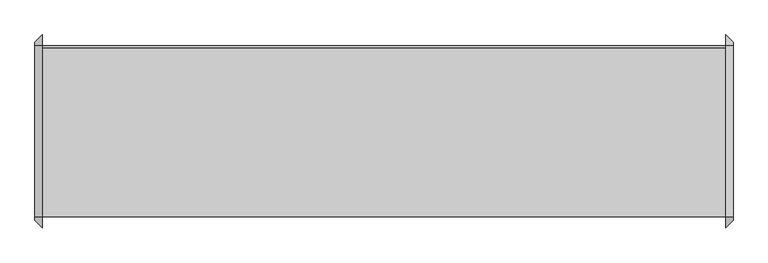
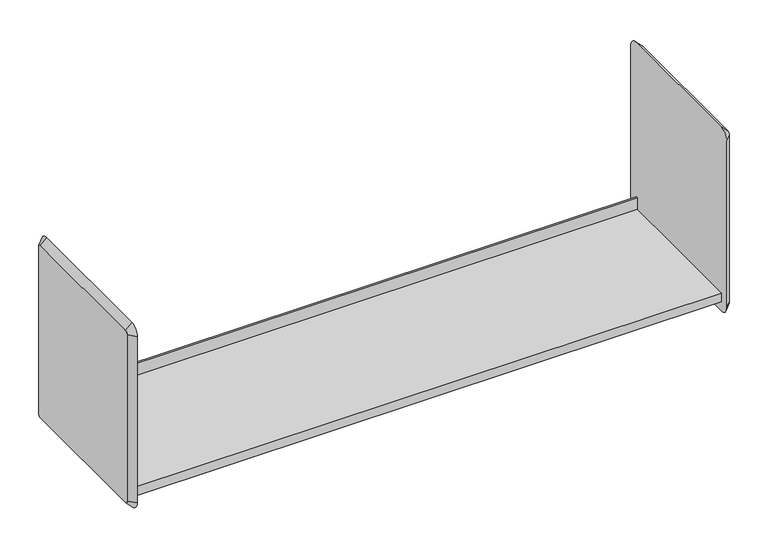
"""IFC4 building model written with IfcOpenShell, lengths in millimetres: furniture geometry, HermanMiller_CoStruc_B-StyleShelf : 15-1/2H x 13D x 48W."""

from ifc_helpers import new_model, si_unit, frame, origin, place, context, project, spatial, polyline, circle_curve, outline, extrude, source, transform, mapped, element, save
from ifc_brep_helpers import plane_surface, revolved_surface, advanced_brep


def furniture_df8e602a(model_context):
    return source(origin(), model_context, "Body", "SolidModel", [
        extrude(outline(polyline([(-136.525, 152.4), (158.75, 152.4), (158.75, 177.8), (161.925, 177.8), (161.925, 133.3152313), (-136.525, 133.3152313), (-136.525, 152.4)])), frame((-720.8420045, 0.0, 0.0), z_axis=(1.0, 0.0, 0.0), x_axis=(0.0, 1.0, 0.0)), (0.0, 0.0, 1.0), 1193.8),
        advanced_brep(
        [(472.9579955, -155.575, 488.95), (472.9579955, -155.575, 133.35), (485.6579955, -142.875, 133.35), (485.6579955, -142.875, 488.95), (485.6579955, 161.925, 495.3), (485.6579955, -136.525, 495.3), (485.6579955, -136.525, 127.0), (485.6579955, 161.925, 127.0), (485.6579955, 168.275, 133.35), (485.6579955, 168.275, 488.95), (472.9579955, -136.525, 114.3), (472.9579955, 161.925, 114.3), (472.9579955, 180.975, 133.35), (472.9579955, 180.975, 488.95), (472.9579955, 161.925, 508.0), (472.9579955, -136.525, 508.0)],
        [
            (0, 1),
            (1, 2),
            (2, 3),
            (3, 0),
            (4, 5),
            (5, 3, circle_curve(frame((485.6579955, -136.525, 488.95), z_axis=(1.0, 0.0, 0.0), x_axis=(0.0, 0.0, 1.0)), 6.35)),
            (2, 6, circle_curve(frame((485.6579955, -136.525, 133.35), z_axis=(1.0, 0.0, 0.0), x_axis=(0.0, -1.0, 0.0)), 6.35)),
            (6, 7),
            (7, 8, circle_curve(frame((485.6579955, 161.925, 133.35), z_axis=(1.0, 0.0, 0.0), x_axis=(0.0, 0.0, -1.0)), 6.35)),
            (8, 9),
            (9, 4, circle_curve(frame((485.6579955, 161.925, 488.95), z_axis=(1.0, 0.0, 0.0), x_axis=(0.0, 1.0, 0.0)), 6.35)),
            (1, 10, circle_curve(frame((472.9579955, -136.525, 133.35), z_axis=(1.0, 0.0, 0.0), x_axis=(0.0, -1.0, 0.0)), 19.05)),
            (10, 6),
            (10, 11),
            (11, 7),
            (11, 12, circle_curve(frame((472.9579955, 161.925, 133.35), z_axis=(1.0, 0.0, 0.0), x_axis=(0.0, 0.0, -1.0)), 19.05)),
            (12, 8),
            (12, 13),
            (13, 9),
            (14, 13, circle_curve(frame((472.9579955, 161.925, 488.95), z_axis=(-1.0, 0.0, 0.0), x_axis=(0.0, 1.0, 0.0)), 19.05)),
            (0, 15, circle_curve(frame((472.9579955, -136.525, 488.95), z_axis=(-1.0, 0.0, 0.0), x_axis=(0.0, 0.0, 1.0)), 19.05)),
            (15, 14),
            (15, 5),
            (4, 14),
        ],
        [
            plane_surface(frame((472.9579955, -155.575, 311.15), z_axis=(0.7071067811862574, -0.7071067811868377, 0.0), x_axis=(0.0, 0.0, -1.0))),
            plane_surface(frame((485.6579955, 12.7, 311.15), z_axis=(1.0, 0.0, 0.0), x_axis=(0.0, -1.0, 0.0))),
            revolved_surface(polyline([(485.6579955, -142.87499999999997, 133.35), (472.9579955, -155.575, 133.35)]), (492.0079955, -136.525, 133.35), (-1.0, 0.0, 0.0)),
            plane_surface(frame((472.9579955, 12.7, 114.3), z_axis=(0.7071067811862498, 0.0, -0.7071067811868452), x_axis=(0.0, 1.0, 0.0))),
            revolved_surface(polyline([(485.6579955, 161.925, 127.00000000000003), (472.9579955, 161.925, 114.3)]), (492.0079955, 161.925, 133.35), (-1.0, 0.0, 0.0)),
            plane_surface(frame((472.9579955, 180.975, 311.15), z_axis=(0.7071067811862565, 0.7071067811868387, 0.0), x_axis=(0.0, 0.0, 1.0))),
            plane_surface(frame((472.9579955, 12.7, 311.15), z_axis=(-1.0, 0.0, 0.0), x_axis=(0.0, -1.0, 0.0))),
            plane_surface(frame((472.9579955, 12.7, 508.0), z_axis=(0.7071067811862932, 0.0, 0.7071067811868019), x_axis=(0.0, -1.0, 0.0))),
            revolved_surface(polyline([(485.6579955, -136.525, 495.29999999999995), (472.9579955, -136.525, 508.0)]), (492.0079955, -136.525, 488.95), (-1.0, 0.0, 0.0)),
            revolved_surface(polyline([(485.6579955, 168.27499999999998, 488.95), (472.9579955, 180.975, 488.95)]), (492.0079955, 161.925, 488.95), (-1.0, 0.0, 0.0)),
        ],
        [
            (0, [[1, 2, 3, 4]]),
            (1, [[5, 6, -3, 7, 8, 9, 10, 11]]),
            (2, [[12, 13, -7, -2]]),
            (3, [[14, 15, -8, -13]]),
            (4, [[16, 17, -9, -15]]),
            (5, [[18, 19, -10, -17]]),
            (6, [[20, -18, -16, -14, -12, -1, 21, 22]]),
            (7, [[-22, 23, -5, 24]]),
            (8, [[-21, -4, -6, -23]]),
            (9, [[-20, -24, -11, -19]]),
        ],
    ),
        advanced_brep(
        [(-720.8420045, 180.975, 488.95), (-720.8420045, 180.975, 133.35), (-733.5420045, 168.275, 133.35), (-733.5420045, 168.275, 488.95), (-733.5420045, -136.525, 495.3), (-733.5420045, 161.925, 495.3), (-733.5420045, 161.925, 127.0), (-733.5420045, -136.525, 127.0), (-733.5420045, -142.875, 133.35), (-733.5420045, -142.875, 488.95), (-720.8420045, 161.925, 114.3), (-720.8420045, -136.525, 114.3), (-720.8420045, -155.575, 133.35), (-720.8420045, -155.575, 488.95), (-720.8420045, -136.525, 508.0), (-720.8420045, 161.925, 508.0)],
        [
            (0, 1),
            (1, 2),
            (2, 3),
            (3, 0),
            (4, 5),
            (5, 3, circle_curve(frame((-733.5420045, 161.925, 488.95), z_axis=(-1.0, 4.822808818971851e-12, 2.334132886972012e-12), x_axis=(2.334099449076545e-12, 0.0, 1.0)), 6.35)),
            (2, 6, circle_curve(frame((-733.5420045, 161.925, 133.35), z_axis=(-1.0, 1.0604850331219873e-12, 7.204903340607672e-12), x_axis=(1.060440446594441e-12, 1.0, 0.0)), 6.35)),
            (6, 7),
            (7, 8, circle_curve(frame((-733.5420045, -136.525, 133.35), z_axis=(-1.0, 1.4002132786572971e-12, 0.0), x_axis=(0.0, 0.0, -1.0)), 6.35)),
            (8, 9),
            (9, 4, circle_curve(frame((-733.5420045, -136.525, 488.95), z_axis=(-1.0, 0.0, 3.05888647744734e-12), x_axis=(0.0, -1.0, 0.0)), 6.35)),
            (1, 10, circle_curve(frame((-720.8420045, 161.925, 133.35), z_axis=(-1.0, 1.0604850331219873e-12, 7.204903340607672e-12), x_axis=(1.060440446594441e-12, 1.0, 0.0)), 19.05)),
            (10, 6),
            (10, 11),
            (11, 7),
            (11, 12, circle_curve(frame((-720.8420045, -136.525, 133.35), z_axis=(-1.0, 1.4002132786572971e-12, 0.0), x_axis=(0.0, 0.0, -1.0)), 19.05)),
            (12, 8),
            (12, 13),
            (13, 9),
            (14, 13, circle_curve(frame((-720.8420045, -136.525, 488.95), z_axis=(1.0, 0.0, -3.05888647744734e-12), x_axis=(0.0, -1.0, 0.0)), 19.05)),
            (0, 15, circle_curve(frame((-720.8420045, 161.925, 488.95), z_axis=(1.0, -4.822808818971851e-12, -2.334132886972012e-12), x_axis=(2.334099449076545e-12, 0.0, 1.0)), 19.05)),
            (15, 14),
            (15, 5),
            (4, 14),
        ],
        [
            plane_surface(frame((-720.8420045, 180.975, 311.15), z_axis=(-0.7071067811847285, 0.7071067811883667, 0.0), x_axis=(0.0, 0.0, -1.0))),
            plane_surface(frame((-733.5420045, 12.7, 311.15), z_axis=(-1.0, 0.0, 0.0), x_axis=(0.0, -1.0, 0.0))),
            revolved_surface(polyline([(-733.5420045, 168.27500000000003, 133.35), (-720.8420044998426, 180.97500000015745, 133.35)]), (-739.8920045, 161.925, 133.35), (1.0, -1.0604850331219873e-12, -7.204903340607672e-12)),
            plane_surface(frame((-720.8420045, 12.7, 114.3), z_axis=(-0.7071067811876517, 0.0, -0.7071067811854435), x_axis=(0.0, -1.0, 0.0))),
            revolved_surface(polyline([(-733.5420045, -136.525, 126.99999999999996), (-720.8420044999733, -136.525, 114.29999999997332)]), (-739.8920045, -136.525, 133.35), (1.0, -1.4002132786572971e-12, 0.0)),
            plane_surface(frame((-720.8420045, -155.575, 311.15), z_axis=(-0.7071067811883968, -0.7071067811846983, 0.0), x_axis=(0.0, 0.0, 1.0))),
            plane_surface(frame((-720.8420045, 12.7, 311.15), z_axis=(1.0, 0.0, 0.0), x_axis=(0.0, -1.0, 0.0))),
            plane_surface(frame((-720.8420045, 12.7, 508.0), z_axis=(-0.7071067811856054, 0.0, 0.7071067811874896), x_axis=(0.0, 1.0, 0.0))),
            revolved_surface(polyline([(-733.5420045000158, 161.925, 495.2999999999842), (-720.8420044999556, 161.925, 508.00000000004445)]), (-739.8920045, 161.925, 488.95), (1.0, -4.822808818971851e-12, -2.334132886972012e-12)),
            revolved_surface(polyline([(-733.5420045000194, -142.87499999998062, 488.95), (-720.8420045, -155.575, 488.95)]), (-739.8920045, -136.525, 488.95), (1.0, 0.0, -3.05888647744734e-12)),
        ],
        [
            (0, [[1, 2, 3, 4]]),
            (1, [[5, 6, -3, 7, 8, 9, 10, 11]]),
            (2, [[12, 13, -7, -2]]),
            (3, [[14, 15, -8, -13]]),
            (4, [[16, 17, -9, -15]]),
            (5, [[18, 19, -10, -17]]),
            (6, [[20, -18, -16, -14, -12, -1, 21, 22]]),
            (7, [[-22, 23, -5, 24]]),
            (8, [[-21, -4, -6, -23]]),
            (9, [[-20, -24, -11, -19]]),
        ],
    ),
    ])


if __name__ == "__main__":
    model = new_model("IFC4")
    model_context = context("Model", 3, world=origin())
    ifc_project = project(units=[si_unit("LENGTHUNIT", "METRE", prefix="MILLI")], contexts=[model_context])
    site = spatial("IfcSite", under=ifc_project)
    building = spatial("IfcBuilding", under=site)
    placement = place(None, origin())
    furniture_shape = furniture_df8e602a(model_context)
    element("IfcFurniture", 1, ObjectType="HermanMiller_CoStruc_B-StyleShelf : 15-1/2H x 13D x 48W", at=placement, inside=building, context=model_context, shape_type="MappedRepresentation", body=[
        mapped(furniture_shape, transform((0.0, 0.0, 0.0), x_axis=(1.0, 0.0, 0.0), y_axis=(0.0, 1.0, 0.0), z_axis=(0.0, 0.0, 1.0))),
    ])
    save(model, "model.ifc")
